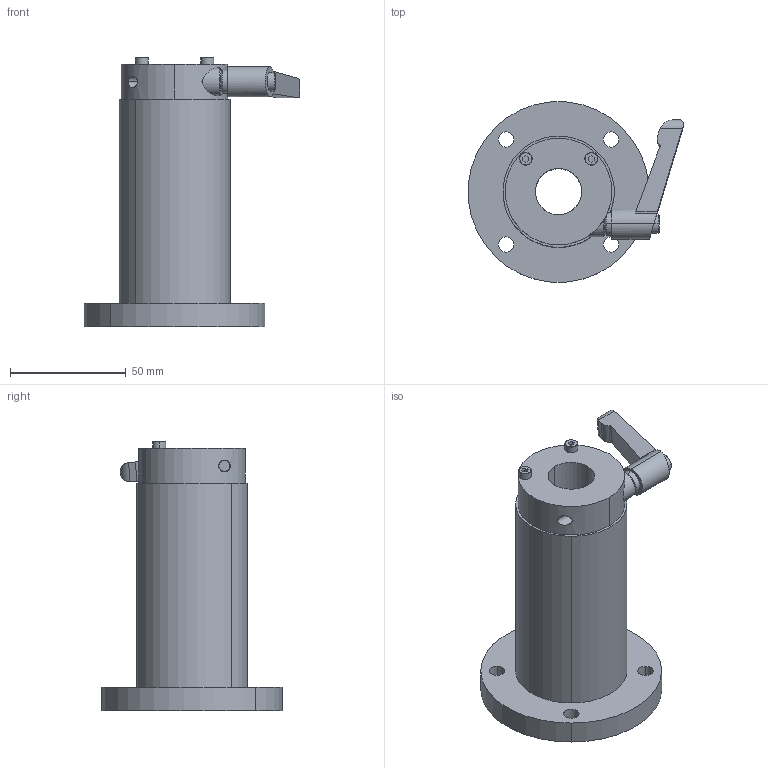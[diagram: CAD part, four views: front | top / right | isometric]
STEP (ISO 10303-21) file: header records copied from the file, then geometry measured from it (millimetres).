
FILE_DESCRIPTION (( 'STEP AP214' ), '1' );
FILE_NAME ('LFW20-C.STEP', '2023-06-27T01:52:48', ( '' ), ( '' ), 'SwSTEP 2.0', 'SolidWorks 2019', '' );
FILE_SCHEMA (( 'AUTOMOTIVE_DESIGN' ));
Length unit declared in the file: millimetre
Products named in the file (3): “ÁSCK2015CO-S3.4; LFW20; LFW20-C
Assembly tree (2 placements, depth 2):
  LFW20-C
    LFW20
    “ÁSCK2015CO-S3.4
Bounding box: 92.75 x 77.7 x 116 mm (x, y, z)
Volume: 193534.7 mm3; surface area: 46081.9 mm2
Topology: 3 solids, 8 shells, 189 faces, 464 edges, 294 vertices
Faces by surface type: cylinder 76, plane 55, bspline 39, cone 11, torus 8
Entity records: 8293 total; most frequent: CARTESIAN_POINT 1847, DIRECTION 977, ORIENTED_EDGE 928, EDGE_CURVE 464, AXIS2_PLACEMENT_3D 402, VERTEX_POINT 294, CIRCLE 247, EDGE_LOOP 230
